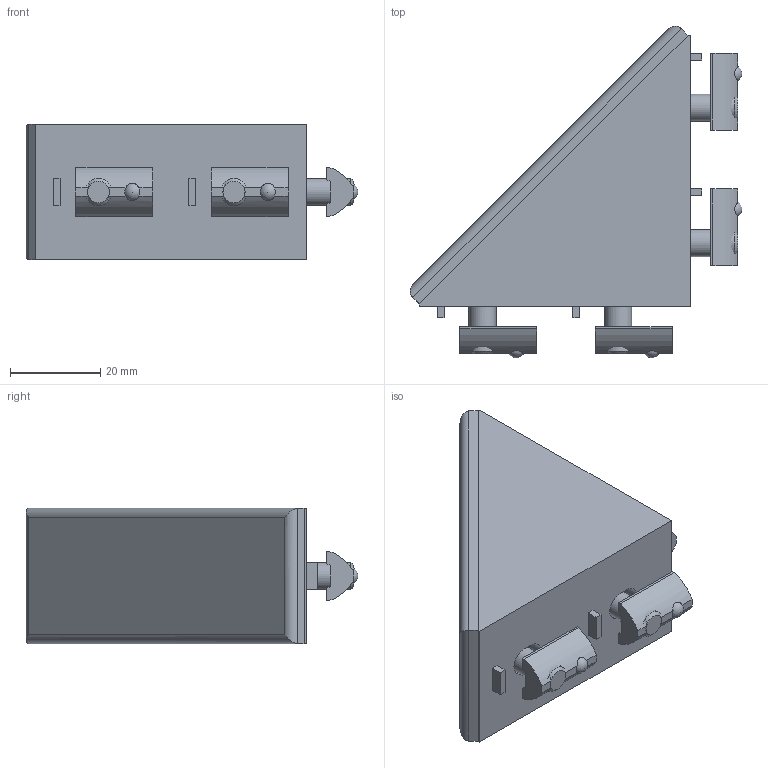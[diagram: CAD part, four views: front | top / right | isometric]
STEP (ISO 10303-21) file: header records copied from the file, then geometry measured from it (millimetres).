
FILE_DESCRIPTION(/* description */ ('STEP AP214'),/* implementation_level */ '2;1');
FILE_NAME(/* name */ 'Angle Bracket_ Zinc Die Casting GN 30i-30606-C-ZWSZS',/* time_stamp */ '2024-08-27T08:25:06+02:00',/* author */ ('License CC BY-ND 4.0'),/* organization */ ('CADENAS'),/* preprocessor_version */ 'ST-DEVELOPER v19.3',/* originating_system */ 'PARTsolutions',/* authorisation */ ' ');
FILE_SCHEMA (('AUTOMOTIVE_DESIGN {1 0 10303 214 3 1 1}'));
Length unit declared in the file: millimetre
Products named in the file (4): Angle Bracket, Zinc Die Casting GN 30i-30606-C-ZWSZS; Angle Bracket, Zinc Die Casting GN 30i-30606-C-ZWSZS-1; Angle Bracket, Zinc Die Casting GN 30i-30606-C-ZWSZS-2; Angle Bracket, Zinc Die Casting GN 30i-30606-C-ZWSZS-3
Assembly tree (9 placements, depth 2):
  Angle Bracket, Zinc Die Casting GN 30i-30606-C-ZWSZS
    Angle Bracket, Zinc Die Casting GN 30i-30606-C-ZWSZS-1
    Angle Bracket, Zinc Die Casting GN 30i-30606-C-ZWSZS-2  x4
    Angle Bracket, Zinc Die Casting GN 30i-30606-C-ZWSZS-3  x4
Bounding box: 73.4 x 73.4 x 30 mm (x, y, z)
Volume: 35136.7 mm3; surface area: 22645.1 mm2
Topology: 9 solids, 9 shells, 190 faces, 482 edges, 312 vertices
Faces by surface type: plane 138, cylinder 36, sphere 8, cone 8
Full cylindrical faces by diameter (mm): 4.917 x4, 5.4 x4, 6 x4, 10.5 x4
Entity records: 3195 total; most frequent: CARTESIAN_POINT 489, DIRECTION 454, ORIENTED_EDGE 432, EDGE_CURVE 216, LINE 172, VECTOR 172, VERTEX_POINT 144, AXIS2_PLACEMENT_3D 141
